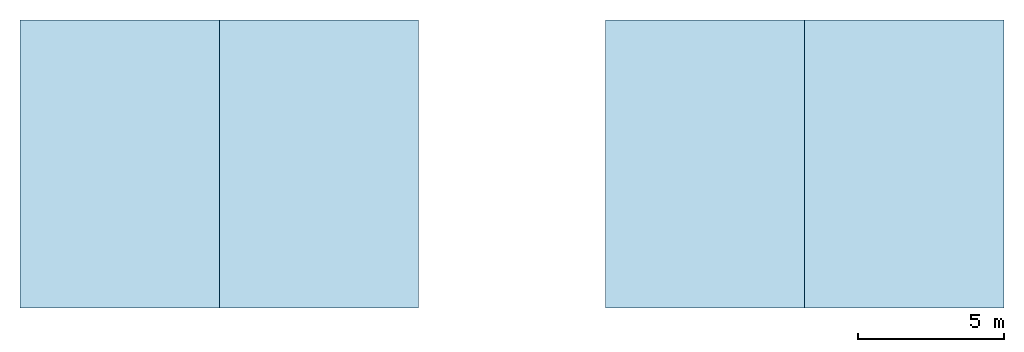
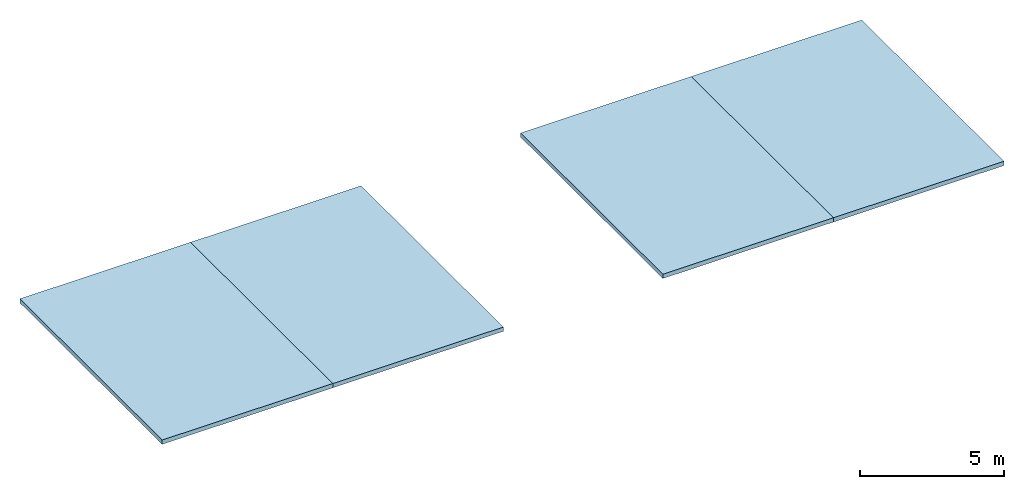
# One storey: 4 slabs.
"""IFC2X3 building model written with IfcOpenShell, lengths in metres."""

from ifc_helpers import new_model, entity, si_unit, converted_unit, money_unit, direction, frame, origin_with_axes, place, context, subcontext, project, spatial, polyline, outline, extrude, material, layer, layer_set, layer_usage, type_object, element, save


model = new_model("IFC2X3")

# Units and contexts
model_context = context("Model", 3, precision=1e-05, world=origin_with_axes(), true_north=direction((0.0, 1.0)))
body_context = subcontext(model_context, "Body", "Model", "MODEL_VIEW")
ifc_project = project(units=[si_unit("LENGTHUNIT", "METRE"), si_unit("AREAUNIT", "SQUARE_METRE"), si_unit("VOLUMEUNIT", "CUBIC_METRE"), converted_unit("PLANEANGLEUNIT", "DEGREE", entity("IfcPlaneAngleMeasure", 0.0174532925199), si_unit("PLANEANGLEUNIT", "RADIAN"), dimensions=[0, 0, 0, 0, 0, 0, 0]), si_unit("SOLIDANGLEUNIT", "STERADIAN"), money_unit("EUR"), si_unit("TIMEUNIT", "SECOND"), si_unit("MASSUNIT", "GRAM"), si_unit("THERMODYNAMICTEMPERATUREUNIT", "DEGREE_CELSIUS"), si_unit("LUMINOUSINTENSITYUNIT", "LUMEN")], contexts=[model_context])

# Site, building, storey
site_placement = place(None, origin_with_axes())
site = spatial("IfcSite", under=ifc_project, at=site_placement, Name="Gelände", CompositionType="ELEMENT")
building_placement = place(site_placement, origin_with_axes())
building = spatial("IfcBuilding", under=site, at=building_placement, Name="Gebäude", CompositionType="ELEMENT")
storey_placement = place(building_placement, frame((0.0, 0.0, 5.44), z_axis=(0.0, 0.0, 1.0), x_axis=(1.0, 0.0, 0.0)))
storey = spatial("IfcBuildingStorey", under=building, at=storey_placement, Name="Dachaufsicht", CompositionType="ELEMENT", Elevation=5.44)

# Slabs
ifc_material = material(Name="Beton, Stahlbeton")
ifc_layer = layer(ifc_material, 0.18, ventilated="UNKNOWN")
ifc_layer_set = layer_set([ifc_layer], Name="Beton, Stahlbeton 0.18")
ifc_layer_usage_1 = layer_usage(ifc_layer_set, "AXIS3", "NEGATIVE", 0.18)
slab_type = type_object("IfcSlabType", Name="Beton, Stahlbeton 180", PredefinedType="ROOF")
slab_1_placement = place(storey_placement, frame((5.53401754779, -7.59220593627, 0.0), z_axis=(0.0, 0.0, 1.0), x_axis=(1.0, 0.0, 0.0)))
element("IfcSlab", 1, at=slab_1_placement, inside=storey, type_object=slab_type, material=ifc_layer_usage_1, Name="Flachdach A", PredefinedType="ROOF", context=body_context, shape_type="SweptSolid", body=[
    extrude(outline(polyline([(0.0, 0.0), (6.82, 0.0), (6.82, 9.84999998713), (0.0, 9.84999998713), (0.0, 0.0)])), frame((0.0, 0.0, -0.18), z_axis=(0.0, 0.0, 1.0), x_axis=(1.0, 0.0, 0.0)), (0.0, 0.0, 1.0), 0.18),
])
ifc_layer_usage_2 = layer_usage(ifc_layer_set, "AXIS3", "NEGATIVE", 0.18)
slab_2_placement = place(storey_placement, frame((19.1740175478, -7.59220593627, 0.0), z_axis=(0.0, 0.0, 1.0), x_axis=(1.0, 0.0, 0.0)))
element("IfcSlab", 2, at=slab_2_placement, inside=storey, type_object=slab_type, material=ifc_layer_usage_2, Name="Flachdach B", PredefinedType="ROOF", context=body_context, shape_type="SweptSolid", body=[
    extrude(outline(polyline([(0.0, 0.0), (0.0, 9.84999998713), (-6.82, 9.84999998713), (-6.82, 0.0), (0.0, 0.0)])), frame((0.0, 0.0, -0.18), z_axis=(0.0, 0.0, 1.0), x_axis=(1.0, 0.0, 0.0)), (0.0, 0.0, 1.0), 0.18),
])
ifc_layer_usage_3 = layer_usage(ifc_layer_set, "AXIS3", "NEGATIVE", 0.18)
slab_3_placement = place(storey_placement, frame((39.1939410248, -7.59220593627, 0.0), z_axis=(0.0, 0.0, 1.0), x_axis=(1.0, 0.0, 0.0)))
element("IfcSlab", 3, at=slab_3_placement, inside=storey, type_object=slab_type, material=ifc_layer_usage_3, Name="Flachdach D", PredefinedType="ROOF", context=body_context, shape_type="SweptSolid", body=[
    extrude(outline(polyline([(0.0, 0.0), (0.0, 9.84999998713), (-6.82, 9.84999998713), (-6.82, 0.0), (0.0, 0.0)])), frame((0.0, 0.0, -0.18), z_axis=(0.0, 0.0, 1.0), x_axis=(1.0, 0.0, 0.0)), (0.0, 0.0, 1.0), 0.18),
])
ifc_layer_usage_4 = layer_usage(ifc_layer_set, "AXIS3", "NEGATIVE", 0.18)
slab_4_placement = place(storey_placement, frame((25.5539410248, -7.59220593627, 0.0), z_axis=(0.0, 0.0, 1.0), x_axis=(1.0, 0.0, 0.0)))
element("IfcSlab", 4, at=slab_4_placement, inside=storey, type_object=slab_type, material=ifc_layer_usage_4, Name="Flachdach C", PredefinedType="ROOF", context=body_context, shape_type="SweptSolid", body=[
    extrude(outline(polyline([(0.0, 0.0), (6.82, 0.0), (6.82, 9.84999998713), (0.0, 9.84999998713), (0.0, 0.0)])), frame((0.0, 0.0, -0.18), z_axis=(0.0, 0.0, 1.0), x_axis=(1.0, 0.0, 0.0)), (0.0, 0.0, 1.0), 0.18),
])

save(model, "model.ifc")
